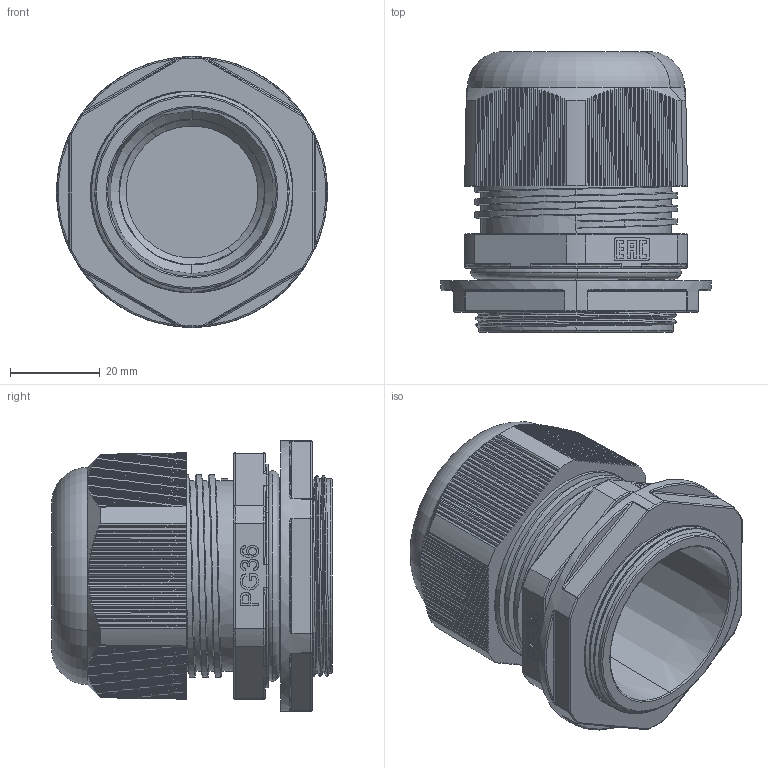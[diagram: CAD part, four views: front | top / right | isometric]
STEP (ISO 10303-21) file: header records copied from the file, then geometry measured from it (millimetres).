
FILE_DESCRIPTION (( 'STEP AP203' ), '1' );
FILE_NAME ('plc-pg-36-00.00.000ÑÁ Ñàëüíèê PG36 #cable gland PG36#.STEP', '2024-02-27T10:52:07', ( '' ), ( '' ), 'SwSTEP 2.0', 'SolidWorks 2021', '' );
FILE_SCHEMA (( 'CONFIG_CONTROL_DESIGN' ));
Length unit declared in the file: millimetre
Products named in the file (6): plc-pg-36-00.00.003 Ãàéêà ïðèæèìíàÿ (PG36-Ì45) #clamping nut (PG36-M45)#; plc-pg-36-00.00.002 Ãàéêà öàíãîâàÿ (PG36) #collet nut (PG36)#; plc-pg-36-00.00.004 Óïëîòíèòåëü (PG36) #sealant (PG36)#; plc-pg-36-00.00.005 ﾌ瑙趺 (PG36) #sealing ring (PG36)#; plc-pg-36-00.00.000ÑÁ Ñàëüíèê PG36 #cable gland PG36#; plc-pg-36-00.00.001 昢膼瘔 (PG36) #base (PG36)#
Assembly tree (5 placements, depth 2):
  plc-pg-36-00.00.000ÑÁ Ñàëüíèê PG36 #cable gland PG36#
    plc-pg-36-00.00.001 昢膼瘔 (PG36) #base (PG36)#
    plc-pg-36-00.00.002 Ãàéêà öàíãîâàÿ (PG36) #collet nut (PG36)#
    plc-pg-36-00.00.003 Ãàéêà ïðèæèìíàÿ (PG36-Ì45) #clamping nut (PG36-M45)#
    plc-pg-36-00.00.004 Óïëîòíèòåëü (PG36) #sealant (PG36)#
    plc-pg-36-00.00.005 ﾌ瑙趺 (PG36) #sealing ring (PG36)#
Bounding box: 60.5 x 62.61 x 60.5 mm (x, y, z)
Volume: 55719.7 mm3; surface area: 45910.7 mm2
Topology: 5 solids, 8 shells, 1154 faces, 3195 edges, 2058 vertices
Faces by surface type: plane 666, cone 142, cylinder 134, torus 101, bspline 99, sphere 12
Entity records: 47695 total; most frequent: CARTESIAN_POINT 20065, ORIENTED_EDGE 6366, DIRECTION 4679, EDGE_CURVE 3183, VERTEX_POINT 2058, AXIS2_PLACEMENT_3D 1611, VECTOR 1457, LINE 1457
